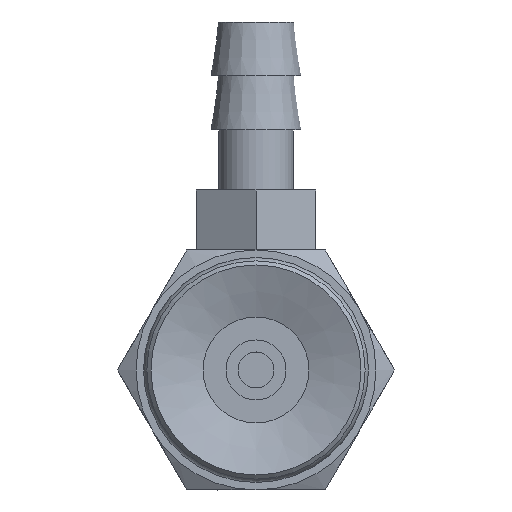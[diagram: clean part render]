
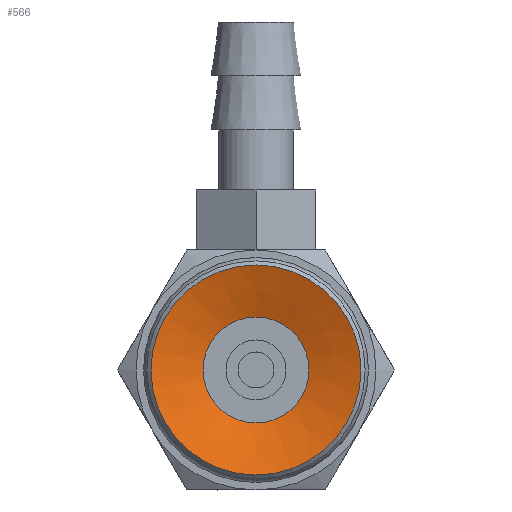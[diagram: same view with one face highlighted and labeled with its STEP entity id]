
A CAD part, front view. The second image highlights one B-rep face of the part: STEP entity #566.
In plain terms, the highlighted conical face has half-angle 70 degrees and reference radius 3.5 mm.
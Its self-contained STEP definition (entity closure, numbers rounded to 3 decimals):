
#566=ADVANCED_FACE('',(#866,#867),#868,.F.);
#866=FACE_BOUND('',#1205,.T.);
#867=FACE_OUTER_BOUND('',#1206,.T.);
#868=CONICAL_SURFACE('',#1207,3.5,1.222);
#1205=EDGE_LOOP('',(#1985));
#1206=EDGE_LOOP('',(#1986));
#1207=AXIS2_PLACEMENT_3D('',#1987,#1988,#1989);
#1985=ORIENTED_EDGE('',*,*,#2312,.F.);
#1986=ORIENTED_EDGE('',*,*,#2293,.T.);
#1987=CARTESIAN_POINT('',(0.0,0.0,0.0));
#1988=DIRECTION('',(-0.0,-1.0,0.));
#1989=DIRECTION('',(0.0,0.,-1.0));
#2293=EDGE_CURVE('',#2632,#2632,#2633,.T.);
#2312=EDGE_CURVE('',#2670,#2670,#2671,.T.);
#2632=VERTEX_POINT('',#3394);
#2633=CIRCLE('',#3395,3.5);
#2670=VERTEX_POINT('',#3432);
#2671=CIRCLE('',#3433,1.765);
#3394=CARTESIAN_POINT('',(0.0,0.,-3.5));
#3395=AXIS2_PLACEMENT_3D('',#3755,#3756,#3757);
#3432=CARTESIAN_POINT('',(0.0,0.632,-1.765));
#3433=AXIS2_PLACEMENT_3D('',#3812,#3813,#3814);
#3755=CARTESIAN_POINT('',(0.0,0.0,0.0));
#3756=DIRECTION('',(0.0,-1.0,0.));
#3757=DIRECTION('',(0.0,0.,-1.0));
#3812=CARTESIAN_POINT('',(0.0,0.632,0.0));
#3813=DIRECTION('',(0.0,-1.0,0.));
#3814=DIRECTION('',(0.0,0.,-1.0));
